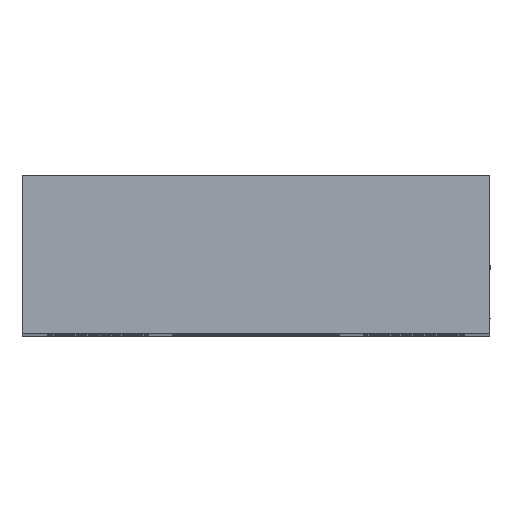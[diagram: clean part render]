
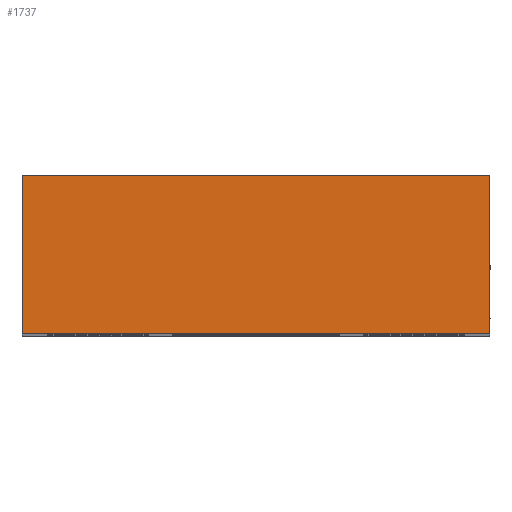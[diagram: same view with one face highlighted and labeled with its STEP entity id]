
A CAD part, top view. The second image highlights one B-rep face of the part: STEP entity #1737.
In plain terms, the highlighted planar face has unit normal (0, 0, 1).
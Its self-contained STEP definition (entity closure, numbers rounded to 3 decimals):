
#93 = ORIENTED_EDGE ( 'NONE', *, *, #2009, .T. ) ;
#163 = VECTOR ( 'NONE', #371, 1000. ) ;
#174 = EDGE_CURVE ( 'NONE', #1532, #1263, #1405, .T. ) ;
#327 = FACE_OUTER_BOUND ( 'NONE', #1897, .T. ) ;
#367 = CARTESIAN_POINT ( 'NONE',  ( -74., 0., 199. ) ) ;
#371 = DIRECTION ( 'NONE',  ( 1., 0., 0. ) ) ;
#441 = CARTESIAN_POINT ( 'NONE',  ( -74., 50., 199. ) ) ;
#481 = DIRECTION ( 'NONE',  ( 0., -1., 0. ) ) ;
#592 = DIRECTION ( 'NONE',  ( -1., 0., 0. ) ) ;
#630 = DIRECTION ( 'NONE',  ( 0., 0., -1. ) ) ;
#822 = CARTESIAN_POINT ( 'NONE',  ( -74., 50., 199. ) ) ;
#870 = PLANE ( 'NONE',  #1018 ) ;
#882 = DIRECTION ( 'NONE',  ( 0., -1., 0. ) ) ;
#896 = CARTESIAN_POINT ( 'NONE',  ( 74., 50., 199. ) ) ;
#938 = ORIENTED_EDGE ( 'NONE', *, *, #174, .F. ) ;
#976 = LINE ( 'NONE', #441, #1741 ) ;
#1018 = AXIS2_PLACEMENT_3D ( 'NONE', #822, #630, #592 ) ;
#1242 = DIRECTION ( 'NONE',  ( 1., 0., 0. ) ) ;
#1257 = VECTOR ( 'NONE', #1242, 1000. ) ;
#1263 = VERTEX_POINT ( 'NONE', #1966 ) ;
#1306 = CARTESIAN_POINT ( 'NONE',  ( -74., 50., 199. ) ) ;
#1341 = CARTESIAN_POINT ( 'NONE',  ( -74., 0., 199. ) ) ;
#1350 = VERTEX_POINT ( 'NONE', #1599 ) ;
#1373 = EDGE_CURVE ( 'NONE', #1350, #1532, #1668, .T. ) ;
#1405 = LINE ( 'NONE', #896, #1777 ) ;
#1461 = ORIENTED_EDGE ( 'NONE', *, *, #2044, .T. ) ;
#1532 = VERTEX_POINT ( 'NONE', #1879 ) ;
#1567 = ORIENTED_EDGE ( 'NONE', *, *, #1373, .F. ) ;
#1599 = CARTESIAN_POINT ( 'NONE',  ( -74., 50., 199. ) ) ;
#1634 = VERTEX_POINT ( 'NONE', #1341 ) ;
#1668 = LINE ( 'NONE', #1306, #1257 ) ;
#1737 = ADVANCED_FACE ( 'NONE', ( #327 ), #870, .F. ) ;
#1741 = VECTOR ( 'NONE', #481, 1000. ) ;
#1777 = VECTOR ( 'NONE', #882, 1000. ) ;
#1847 = LINE ( 'NONE', #367, #163 ) ;
#1879 = CARTESIAN_POINT ( 'NONE',  ( 74., 50., 199. ) ) ;
#1897 = EDGE_LOOP ( 'NONE', ( #93, #938, #1567, #1461 ) ) ;
#1966 = CARTESIAN_POINT ( 'NONE',  ( 74., 0., 199. ) ) ;
#2009 = EDGE_CURVE ( 'NONE', #1634, #1263, #1847, .T. ) ;
#2044 = EDGE_CURVE ( 'NONE', #1350, #1634, #976, .T. ) ;
